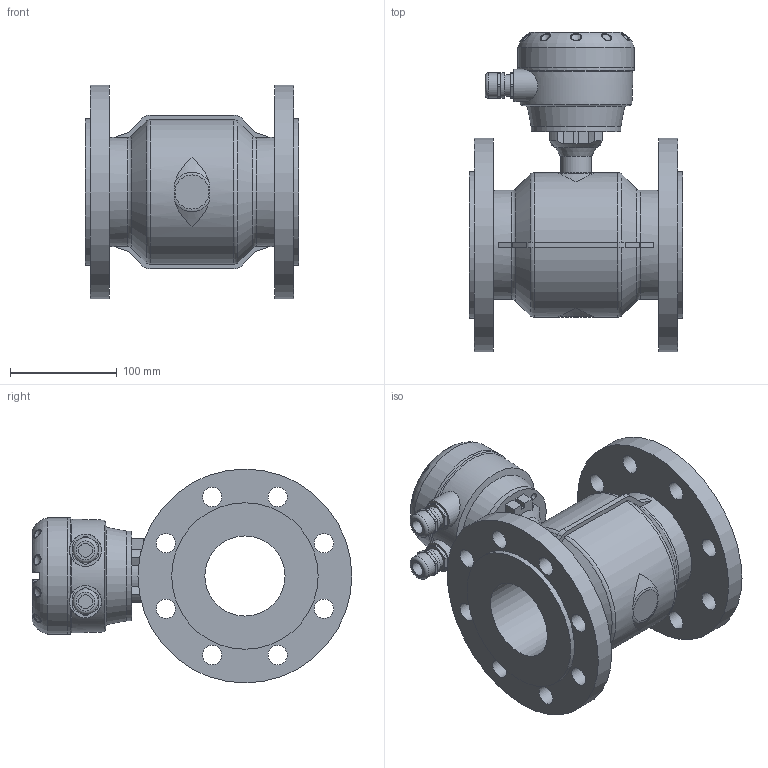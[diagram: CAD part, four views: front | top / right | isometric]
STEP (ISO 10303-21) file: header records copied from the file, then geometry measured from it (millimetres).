
FILE_DESCRIPTION (( 'STEP AP203' ), '1' );
FILE_NAME ('KROHNE_OPTIFLUX_2-4000W_DIN2635_DN80_PN40.STEP', '2011-04-26T11:26:08', ( '' ), ( '' ), 'SwSTEP 2.0', 'SolidWorks 2010', '' );
FILE_SCHEMA (( 'CONFIG_CONTROL_DESIGN' ));
Length unit declared in the file: millimetre
Products named in the file (1): KROHNE_OPTIFLUX_2-4000W_DIN2635_DN80_PN40
Bounding box: 200 x 298.99 x 200 mm (x, y, z)
Volume: 2983138.3 mm3; surface area: 352497.6 mm2
Topology: 14 solids, 14 shells, 391 faces, 976 edges, 634 vertices
Faces by surface type: plane 179, cylinder 102, bspline 53, torus 30, cone 14, sphere 13
Full cylindrical faces by diameter (mm): 4 x4, 6.6 x8, 13 x2, 18 x16, 20 x2, 23.5 x4, 29 x1, 30 x2, 75 x1, 84 x2, 102 x2, 109 x1, 137 x2, 200 x2
Entity records: 15882 total; most frequent: CARTESIAN_POINT 7143, ORIENTED_EDGE 1746, DIRECTION 1657, EDGE_CURVE 873, AXIS2_PLACEMENT_3D 615, VERTEX_POINT 607, EDGE_LOOP 548, FACE_OUTER_BOUND 457
